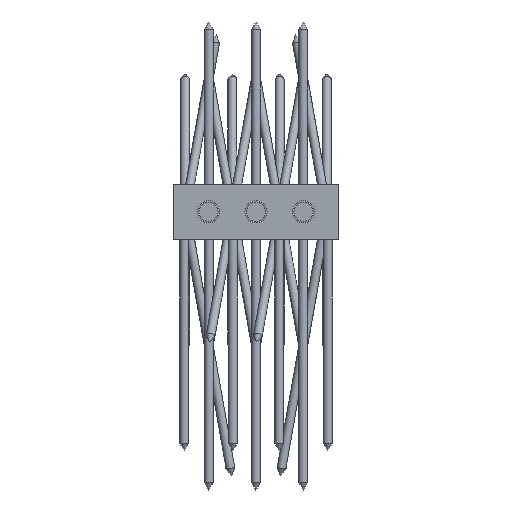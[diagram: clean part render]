
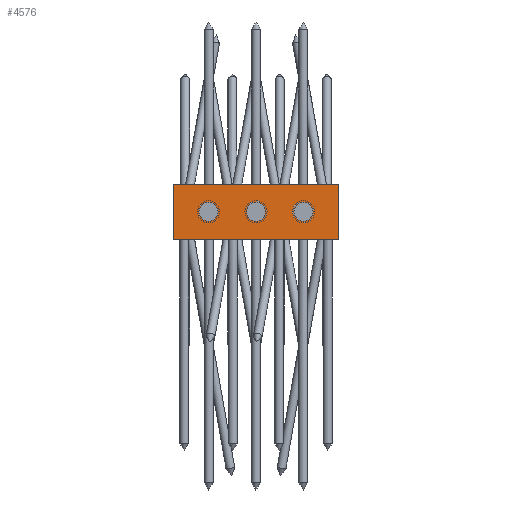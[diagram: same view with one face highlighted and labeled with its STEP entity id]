
A CAD part, front view. The second image highlights one B-rep face of the part: STEP entity #4576.
In plain terms, the highlighted planar face has unit normal (0, -1, 0) as drawn and (0, 0, 1) by its records, which use the part's own axes.
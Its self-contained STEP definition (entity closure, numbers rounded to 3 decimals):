
#303=LINE('',#7978,#583);
#311=LINE('',#8002,#591);
#312=LINE('',#8010,#592);
#313=LINE('',#8011,#593);
#583=VECTOR('',#6708,1000.);
#591=VECTOR('',#6728,1000.);
#592=VECTOR('',#6737,1000.);
#593=VECTOR('',#6738,1000.);
#1097=PLANE('',#5437);
#2058=ORIENTED_EDGE('',*,*,#2638,.F.);
#2059=ORIENTED_EDGE('',*,*,#2639,.F.);
#2060=ORIENTED_EDGE('',*,*,#2640,.F.);
#2061=ORIENTED_EDGE('',*,*,#2641,.F.);
#2062=ORIENTED_EDGE('',*,*,#2637,.F.);
#2063=ORIENTED_EDGE('',*,*,#2642,.T.);
#2064=ORIENTED_EDGE('',*,*,#2625,.T.);
#2625=EDGE_CURVE('',#3044,#3042,#303,.T.);
#2637=EDGE_CURVE('',#3053,#3052,#311,.T.);
#2638=EDGE_CURVE('',#3054,#3054,#3234,.T.);
#2639=EDGE_CURVE('',#3055,#3055,#3235,.T.);
#2640=EDGE_CURVE('',#3056,#3056,#3236,.T.);
#2641=EDGE_CURVE('',#3052,#3042,#312,.T.);
#2642=EDGE_CURVE('',#3053,#3044,#313,.T.);
#3042=VERTEX_POINT('',#7976);
#3044=VERTEX_POINT('',#7979);
#3052=VERTEX_POINT('',#7999);
#3053=VERTEX_POINT('',#8001);
#3054=VERTEX_POINT('',#8005);
#3055=VERTEX_POINT('',#8007);
#3056=VERTEX_POINT('',#8009);
#3234=CIRCLE('',#5438,8.647);
#3235=CIRCLE('',#5439,8.647);
#3236=CIRCLE('',#5440,8.647);
#3706=EDGE_LOOP('',(#2058));
#3707=EDGE_LOOP('',(#2059));
#3708=EDGE_LOOP('',(#2060));
#3709=EDGE_LOOP('',(#2061,#2062,#2063,#2064));
#4232=FACE_BOUND('',#3706,.T.);
#4233=FACE_BOUND('',#3707,.T.);
#4234=FACE_BOUND('',#3708,.T.);
#4235=FACE_BOUND('',#3709,.T.);
#4576=ADVANCED_FACE('',(#4232,#4233,#4234,#4235),#1097,.T.);
#5437=AXIS2_PLACEMENT_3D('',#8003,#6729,#6730);
#5438=AXIS2_PLACEMENT_3D('',#8004,#6731,#6732);
#5439=AXIS2_PLACEMENT_3D('',#8006,#6733,#6734);
#5440=AXIS2_PLACEMENT_3D('',#8008,#6735,#6736);
#6708=DIRECTION('',(0.,-1.,0.));
#6728=DIRECTION('',(0.,-1.,0.));
#6729=DIRECTION('',(0.,0.,1.));
#6730=DIRECTION('',(1.,0.,0.));
#6731=DIRECTION('',(0.,0.,1.));
#6732=DIRECTION('',(1.,0.,0.));
#6733=DIRECTION('',(0.,0.,1.));
#6734=DIRECTION('',(1.,0.,0.));
#6735=DIRECTION('',(0.,0.,1.));
#6736=DIRECTION('',(1.,0.,0.));
#6737=DIRECTION('',(-1.,0.,0.));
#6738=DIRECTION('',(-1.,0.,0.));
#7976=CARTESIAN_POINT('',(0.,0.,50.));
#7978=CARTESIAN_POINT('',(0.,150.,50.));
#7979=CARTESIAN_POINT('',(0.,150.,50.));
#7999=CARTESIAN_POINT('',(50.,0.,50.));
#8001=CARTESIAN_POINT('',(50.,150.,50.));
#8002=CARTESIAN_POINT('',(50.,150.,50.));
#8003=CARTESIAN_POINT('',(50.,150.,50.));
#8004=CARTESIAN_POINT('',(25.,32.,50.));
#8005=CARTESIAN_POINT('',(33.647,32.,50.));
#8006=CARTESIAN_POINT('',(25.,75.,50.));
#8007=CARTESIAN_POINT('',(33.647,75.,50.));
#8008=CARTESIAN_POINT('',(25.,118.,50.));
#8009=CARTESIAN_POINT('',(33.647,118.,50.));
#8010=CARTESIAN_POINT('',(50.,0.,50.));
#8011=CARTESIAN_POINT('',(50.,150.,50.));
